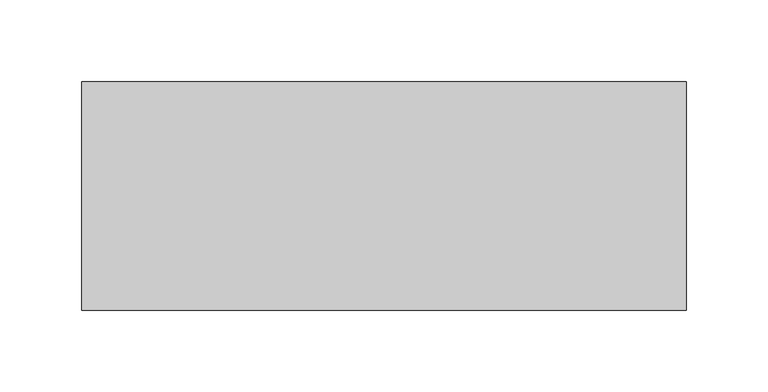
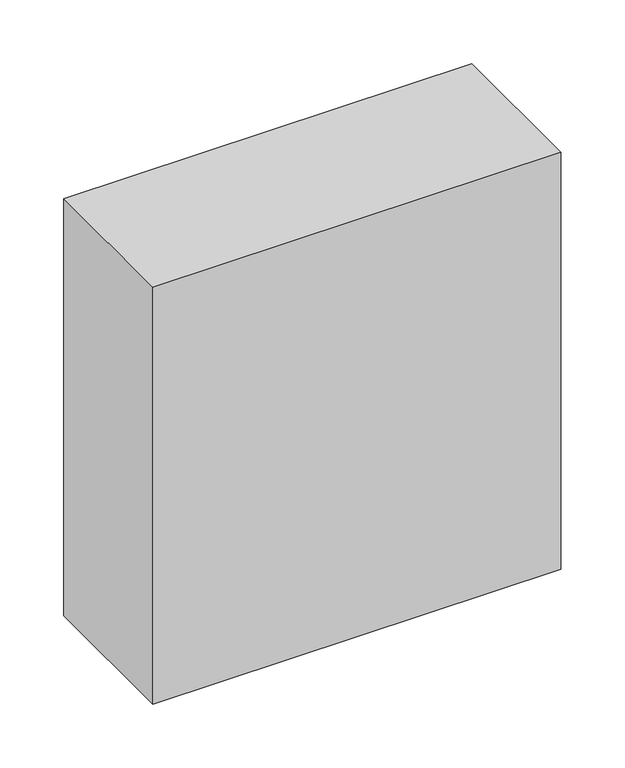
"""IFC4 building model written with IfcOpenShell, lengths in millimetres: proxy geometry."""

from ifc_helpers import new_model, si_unit, frame, origin, place, context, project, spatial, polyline, outline, extrude, source, transform, mapped, element, save


def structural_framing_6e80b120(model_context):
    return source(origin(), model_context, "Body", "SweptSolid", [
        extrude(outline(polyline([(-185.2, -70.0), (-185.2, 70.0), (185.2, 70.0), (185.2, -70.0), (-185.2, -70.0)])), frame((0.0, 0.0, -400.0), z_axis=(0.0, 0.0, 1.0), x_axis=(1.0, 0.0, 0.0)), (0.0, 0.0, 1.0), 400.0),
    ])


if __name__ == "__main__":
    model = new_model("IFC4")
    model_context = context("Model", 3, world=origin())
    ifc_project = project(units=[si_unit("LENGTHUNIT", "METRE", prefix="MILLI")], contexts=[model_context])
    site = spatial("IfcSite", under=ifc_project)
    building = spatial("IfcBuilding", under=site)
    placement = place(None, origin())
    structural_framing_shape = structural_framing_6e80b120(model_context)
    element("IfcBuildingElementProxy", 1, Name="Structural Framing", at=placement, inside=building, context=model_context, shape_type="MappedRepresentation", body=[
        mapped(structural_framing_shape, transform((0.0, 0.0, 0.0), x_axis=(1.0, 0.0, 0.0), y_axis=(0.0, 1.0, 0.0), z_axis=(0.0, 0.0, 1.0))),
    ])
    save(model, "model.ifc")
